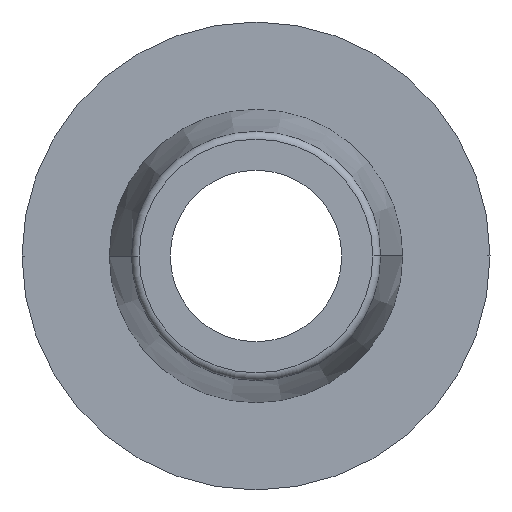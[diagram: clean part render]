
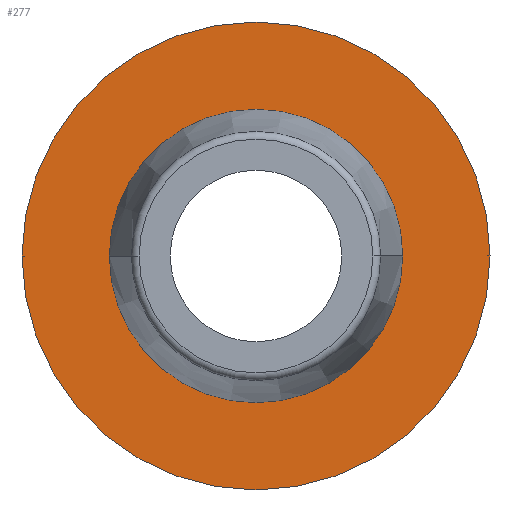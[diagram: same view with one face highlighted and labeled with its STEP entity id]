
A CAD part, front view. The second image highlights one B-rep face of the part: STEP entity #277.
In plain terms, the highlighted planar face has unit normal (0, -1, 0).
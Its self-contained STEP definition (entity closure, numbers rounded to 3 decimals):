
#20 = EDGE_CURVE ( 'NONE', #371, #452, #504, .T. ) ;
#29 = CARTESIAN_POINT ( 'NONE',  ( 9., 0., 0. ) ) ;
#33 = DIRECTION ( 'NONE',  ( 0., 1., 0. ) ) ;
#52 = FACE_BOUND ( 'NONE', #231, .T. ) ;
#54 = PLANE ( 'NONE',  #244 ) ;
#61 = CARTESIAN_POINT ( 'NONE',  ( 5., 0., 0. ) ) ;
#64 = ORIENTED_EDGE ( 'NONE', *, *, #496, .F. ) ;
#82 = AXIS2_PLACEMENT_3D ( 'NONE', #174, #492, #247 ) ;
#107 = EDGE_LOOP ( 'NONE', ( #64, #149 ) ) ;
#111 = CIRCLE ( 'NONE', #425, 9. ) ;
#117 = CARTESIAN_POINT ( 'NONE',  ( 0., 0., 0. ) ) ;
#119 = CIRCLE ( 'NONE', #289, 5. ) ;
#124 = CIRCLE ( 'NONE', #82, 5. ) ;
#138 = CARTESIAN_POINT ( 'NONE',  ( -5., 0., 0. ) ) ;
#140 = CARTESIAN_POINT ( 'NONE',  ( -9., 0., 0. ) ) ;
#149 = ORIENTED_EDGE ( 'NONE', *, *, #20, .F. ) ;
#152 = ORIENTED_EDGE ( 'NONE', *, *, #386, .T. ) ;
#154 = DIRECTION ( 'NONE',  ( 0., 1., 0. ) ) ;
#173 = DIRECTION ( 'NONE',  ( -1., 0., 0. ) ) ;
#174 = CARTESIAN_POINT ( 'NONE',  ( 0., 0., 0. ) ) ;
#217 = CARTESIAN_POINT ( 'NONE',  ( 0., 0., 0. ) ) ;
#221 = CARTESIAN_POINT ( 'NONE',  ( 0., 0., 0. ) ) ;
#222 = AXIS2_PLACEMENT_3D ( 'NONE', #117, #154, #264 ) ;
#229 = FACE_OUTER_BOUND ( 'NONE', #107, .T. ) ;
#231 = EDGE_LOOP ( 'NONE', ( #152, #436 ) ) ;
#244 = AXIS2_PLACEMENT_3D ( 'NONE', #282, #278, #405 ) ;
#247 = DIRECTION ( 'NONE',  ( -1., 0., 0. ) ) ;
#264 = DIRECTION ( 'NONE',  ( -1., 0., 0. ) ) ;
#277 = ADVANCED_FACE ( 'NONE', ( #229, #52 ), #54, .F. ) ;
#278 = DIRECTION ( 'NONE',  ( 0., 1., 0. ) ) ;
#282 = CARTESIAN_POINT ( 'NONE',  ( 5., 0., 0. ) ) ;
#289 = AXIS2_PLACEMENT_3D ( 'NONE', #217, #292, #173 ) ;
#292 = DIRECTION ( 'NONE',  ( 0., 1., 0. ) ) ;
#311 = EDGE_CURVE ( 'NONE', #389, #344, #124, .T. ) ;
#344 = VERTEX_POINT ( 'NONE', #138 ) ;
#371 = VERTEX_POINT ( 'NONE', #29 ) ;
#386 = EDGE_CURVE ( 'NONE', #344, #389, #119, .T. ) ;
#389 = VERTEX_POINT ( 'NONE', #61 ) ;
#405 = DIRECTION ( 'NONE',  ( -1., 0., 0. ) ) ;
#425 = AXIS2_PLACEMENT_3D ( 'NONE', #221, #33, #458 ) ;
#436 = ORIENTED_EDGE ( 'NONE', *, *, #311, .T. ) ;
#452 = VERTEX_POINT ( 'NONE', #140 ) ;
#458 = DIRECTION ( 'NONE',  ( -1., 0., 0. ) ) ;
#492 = DIRECTION ( 'NONE',  ( 0., 1., 0. ) ) ;
#496 = EDGE_CURVE ( 'NONE', #452, #371, #111, .T. ) ;
#504 = CIRCLE ( 'NONE', #222, 9. ) ;
